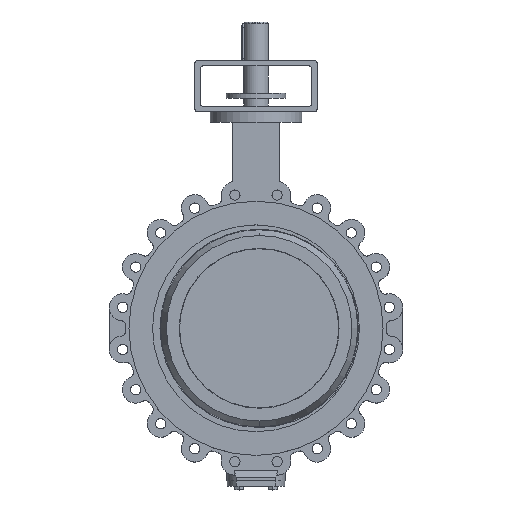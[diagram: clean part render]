
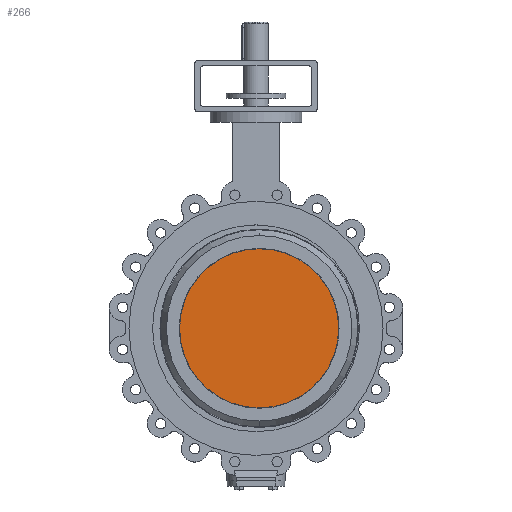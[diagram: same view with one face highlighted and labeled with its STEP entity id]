
A CAD part, top view. The second image highlights one B-rep face of the part: STEP entity #266.
In plain terms, the highlighted planar face has unit normal (0, 0, 1).
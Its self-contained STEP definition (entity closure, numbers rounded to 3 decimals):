
#266 = ADVANCED_FACE( '', ( #850 ), #851, .T. );
#850 = FACE_OUTER_BOUND( '', #1646, .T. );
#851 = PLANE( '', #1647 );
#1646 = EDGE_LOOP( '', ( #3510, #3511 ) );
#1647 = AXIS2_PLACEMENT_3D( '', #3512, #3513, #3514 );
#3510 = ORIENTED_EDGE( '', *, *, #5244, .T. );
#3511 = ORIENTED_EDGE( '', *, *, #5634, .T. );
#3512 = CARTESIAN_POINT( '', ( 9., 113.5, 91.6 ) );
#3513 = DIRECTION( '', ( 0., 0., 1. ) );
#3514 = DIRECTION( '', ( 0., 1., 0. ) );
#5244 = EDGE_CURVE( '', #6401, #6405, #6407, .T. );
#5634 = EDGE_CURVE( '', #6405, #6401, #7054, .T. );
#6401 = VERTEX_POINT( '', #8133 );
#6405 = VERTEX_POINT( '', #8138 );
#6407 = CIRCLE( '', #8141, 227. );
#7054 = CIRCLE( '', #9786, 227. );
#8133 = CARTESIAN_POINT( '', ( 9., 227., 91.6 ) );
#8138 = CARTESIAN_POINT( '', ( 9., -227., 91.6 ) );
#8141 = AXIS2_PLACEMENT_3D( '', #11060, #11061, #11062 );
#9786 = AXIS2_PLACEMENT_3D( '', #11796, #11797, #11798 );
#11060 = CARTESIAN_POINT( '', ( 9., 0., 91.6 ) );
#11061 = DIRECTION( '', ( 0., 0., 1. ) );
#11062 = DIRECTION( '', ( 0., 1., 0. ) );
#11796 = CARTESIAN_POINT( '', ( 9., 0., 91.6 ) );
#11797 = DIRECTION( '', ( 0., 0., 1. ) );
#11798 = DIRECTION( '', ( 0., 1., 0. ) );
